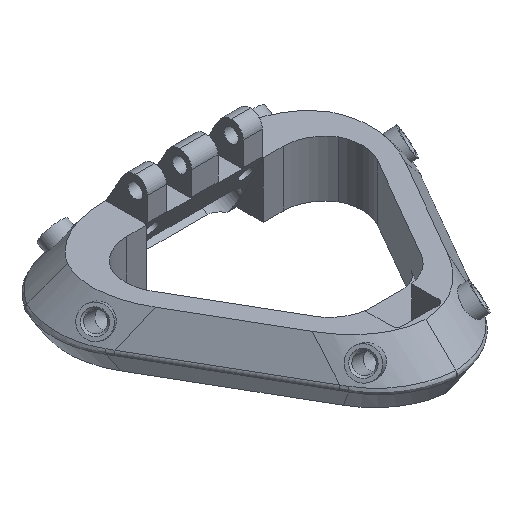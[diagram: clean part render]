
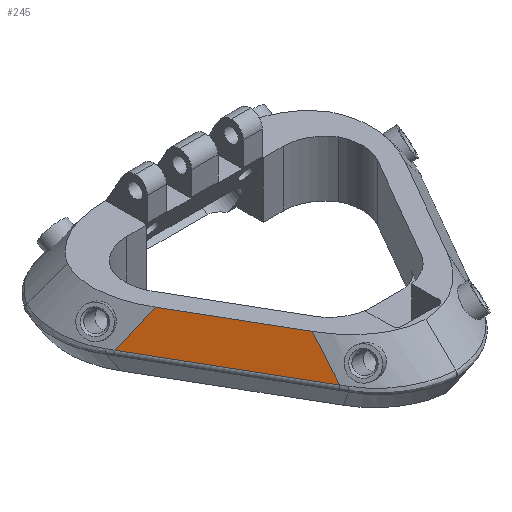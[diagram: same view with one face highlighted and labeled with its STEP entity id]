
A CAD part, isometric view. The second image highlights one B-rep face of the part: STEP entity #245.
In plain terms, the highlighted planar face has unit normal (-0.75, -0.433, 0.5).
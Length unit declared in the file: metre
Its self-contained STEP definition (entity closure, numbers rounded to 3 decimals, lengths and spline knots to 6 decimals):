
#245 = ADVANCED_FACE( '', ( #585 ), #586, .F. );
#585 = FACE_OUTER_BOUND( '', #1193, .T. );
#586 = PLANE( '', #1194 );
#1193 = EDGE_LOOP( '', ( #2728, #2729, #2730, #2731 ) );
#1194 = AXIS2_PLACEMENT_3D( '', #2732, #2733, #2734 );
#2728 = ORIENTED_EDGE( '', *, *, #3599, .T. );
#2729 = ORIENTED_EDGE( '', *, *, #3604, .T. );
#2730 = ORIENTED_EDGE( '', *, *, #3605, .T. );
#2731 = ORIENTED_EDGE( '', *, *, #3475, .T. );
#2732 = CARTESIAN_POINT( '', ( -0.028043, -0.008535, -0.000241 ) );
#2733 = DIRECTION( '', ( 0.75, 0.433, -0.5 ) );
#2734 = DIRECTION( '', ( -0.5, 0.866, 0. ) );
#3475 = EDGE_CURVE( '', #3958, #3956, #3959, .T. );
#3599 = EDGE_CURVE( '', #3956, #4152, #4154, .F. );
#3604 = EDGE_CURVE( '', #4152, #4161, #4162, .F. );
#3605 = EDGE_CURVE( '', #4161, #3958, #4163, .T. );
#3956 = VERTEX_POINT( '', #4763 );
#3958 = VERTEX_POINT( '', #4765 );
#3959 = LINE( '', #4766, #4767 );
#4152 = VERTEX_POINT( '', #5339 );
#4154 = LINE( '', #5341, #5342 );
#4161 = VERTEX_POINT( '', #5387 );
#4162 = LINE( '', #5388, #5389 );
#4163 = LINE( '', #5390, #5391 );
#4763 = CARTESIAN_POINT( '', ( -0.015032, -0.028978, 0.001572 ) );
#4765 = CARTESIAN_POINT( '', ( -0.032612, 0.001471, 0.001572 ) );
#4766 = CARTESIAN_POINT( '', ( -0.027137, -0.008012, 0.001572 ) );
#4767 = VECTOR( '', #6224, 1. );
#5339 = CARTESIAN_POINT( '', ( -0.014458, -0.02255, 0.008 ) );
#5341 = CARTESIAN_POINT( '', ( -0.014255, -0.020279, 0.010271 ) );
#5342 = VECTOR( '', #6401, 1. );
#5387 = CARTESIAN_POINT( '', ( -0.026758, -0.001246, 0.008 ) );
#5388 = CARTESIAN_POINT( '', ( -0.023923, -0.006156, 0.008 ) );
#5389 = VECTOR( '', #6406, 1. );
#5390 = CARTESIAN_POINT( '', ( -0.029629, 0.000087, 0.004847 ) );
#5391 = VECTOR( '', #6407, 1. );
#6224 = DIRECTION( '', ( 0.5, -0.866, 0. ) );
#6401 = DIRECTION( '', ( -0.063, -0.706, -0.706 ) );
#6406 = DIRECTION( '', ( 0.5, -0.866, 0. ) );
#6407 = DIRECTION( '', ( -0.643, 0.298, -0.706 ) );
